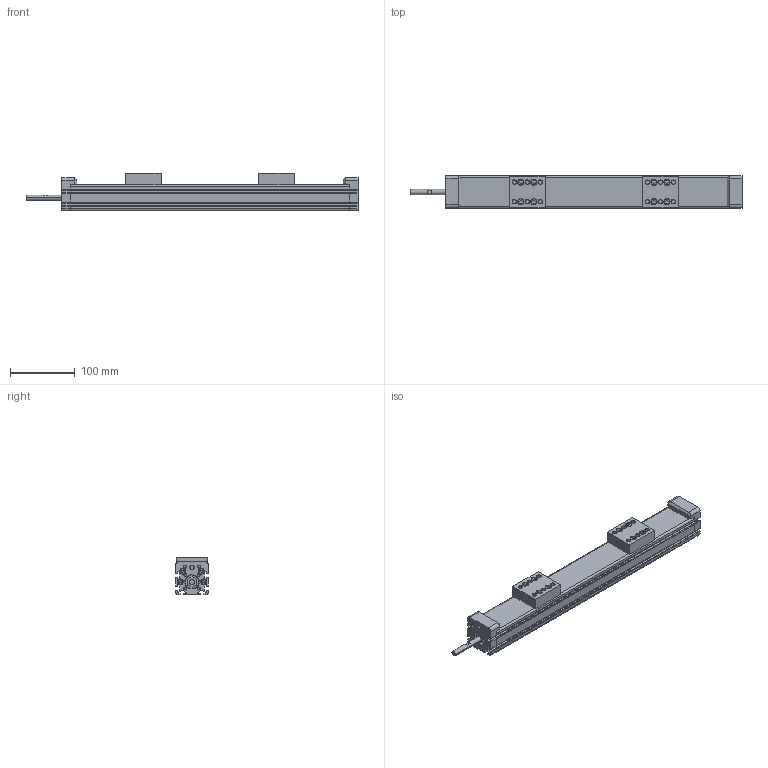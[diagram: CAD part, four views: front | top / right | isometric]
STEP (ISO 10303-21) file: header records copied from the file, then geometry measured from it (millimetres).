
FILE_DESCRIPTION (( 'STEP AP203' ), '1' );
FILE_NAME ('mau5040dw-150y.STEP', '2021-10-26T02:33:13', ( '' ), ( '' ), 'SwSTEP 2.0', 'SolidWorks 2020', '' );
FILE_SCHEMA (( 'CONFIG_CONTROL_DESIGN' ));
Length unit declared in the file: millimetre
Products named in the file (4): mau5040dw-150y; mau5040dw-150y_02; mau5040dw-150y_03; mau5040dw-150y_01
Assembly tree (3 placements, depth 2):
  mau5040dw-150y
    mau5040dw-150y_01
    mau5040dw-150y_02
    mau5040dw-150y_03
Bounding box: 511 x 50 x 58 mm (x, y, z)
Volume: 884830.6 mm3; surface area: 172190.7 mm2
Topology: 3 solids, 3 shells, 955 faces, 2510 edges, 1646 vertices
Faces by surface type: plane 479, cylinder 394, cone 82
Entity records: 29978 total; most frequent: DIRECTION 5308, CARTESIAN_POINT 5117, ORIENTED_EDGE 5020, EDGE_CURVE 2510, AXIS2_PLACEMENT_3D 1837, VERTEX_POINT 1646, LINE 1634, VECTOR 1634
